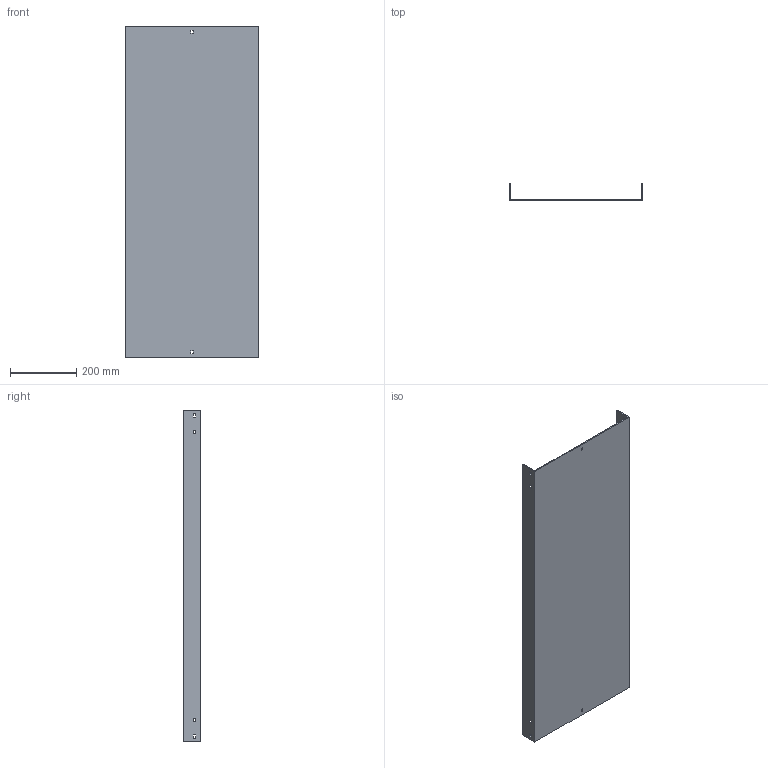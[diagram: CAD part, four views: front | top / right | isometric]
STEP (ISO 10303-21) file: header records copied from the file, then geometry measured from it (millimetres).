
FILE_DESCRIPTION (( 'STEP AP214' ), '1' );
FILE_NAME ('03F1B400.step', '2025-02-21T13:23:13', ( '' ), ( '' ), 'SwSTEP 2.0', 'SolidWorks 2023', '' );
FILE_SCHEMA (( 'AUTOMOTIVE_DESIGN' ));
Length unit declared in the file: millimetre
Products named in the file (1): 03F1B400
Bounding box: 404 x 52 x 1000 mm (x, y, z)
Volume: 1751130.5 mm3; surface area: 1012322 mm2
Topology: 1 solids, 1 shells, 50 faces, 144 edges, 96 vertices
Faces by surface type: plane 50
Entity records: 1671 total; most frequent: CARTESIAN_POINT 291, ORIENTED_EDGE 288, DIRECTION 246, VECTOR 144, LINE 144, EDGE_CURVE 144, VERTEX_POINT 96, EDGE_LOOP 70
